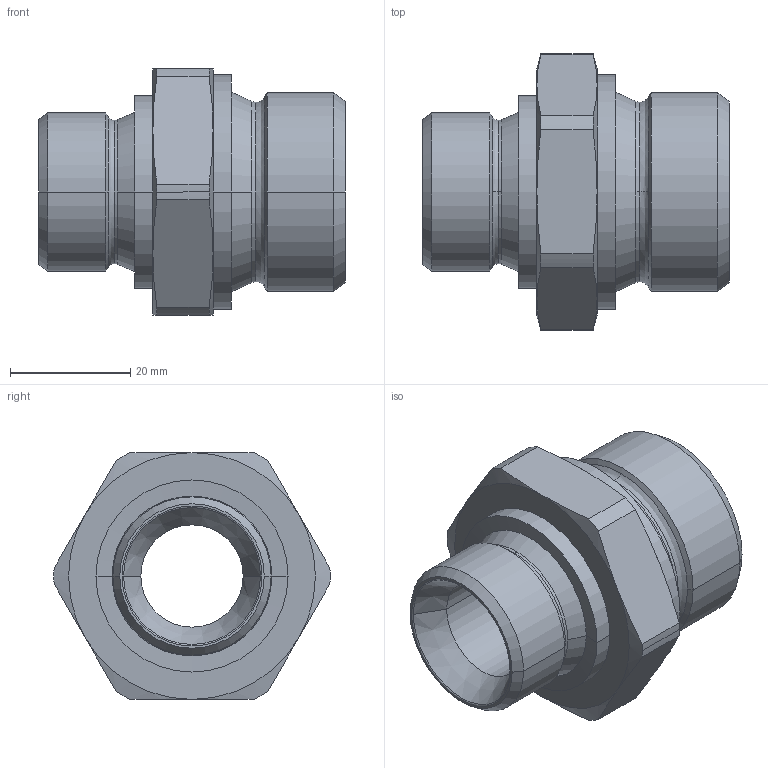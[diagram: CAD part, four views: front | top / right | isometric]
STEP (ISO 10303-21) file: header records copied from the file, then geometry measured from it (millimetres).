
FILE_DESCRIPTION((''),'2;1');
FILE_NAME('300519.stp','2006-09-11T08:12:30',(''),(''),'AutoCAD STEP 2000i','AutoCAD 2000i',', , ');
FILE_SCHEMA(('CONFIG_CONTROL_DESIGN'));
Length unit declared in the file: millimetre
Products named in the file (2): 300519.0; CHIAVE SMUSSATA#0
Assembly tree (1 placements, depth 2):
  300519.0
    CHIAVE SMUSSATA#0
Bounding box: 51 x 45.9 x 41 mm (x, y, z)
Volume: 27344 mm3; surface area: 10552.8 mm2
Topology: 1 solids, 1 shells, 76 faces, 178 edges, 106 vertices
Faces by surface type: cone 34, cylinder 20, plane 10, bspline 8, torus 4
Entity records: 2593 total; most frequent: CARTESIAN_POINT 762, DIRECTION 400, ORIENTED_EDGE 356, EDGE_CURVE 178, AXIS2_PLACEMENT_3D 176, VERTEX_POINT 106, CIRCLE 106, EDGE_LOOP 80
